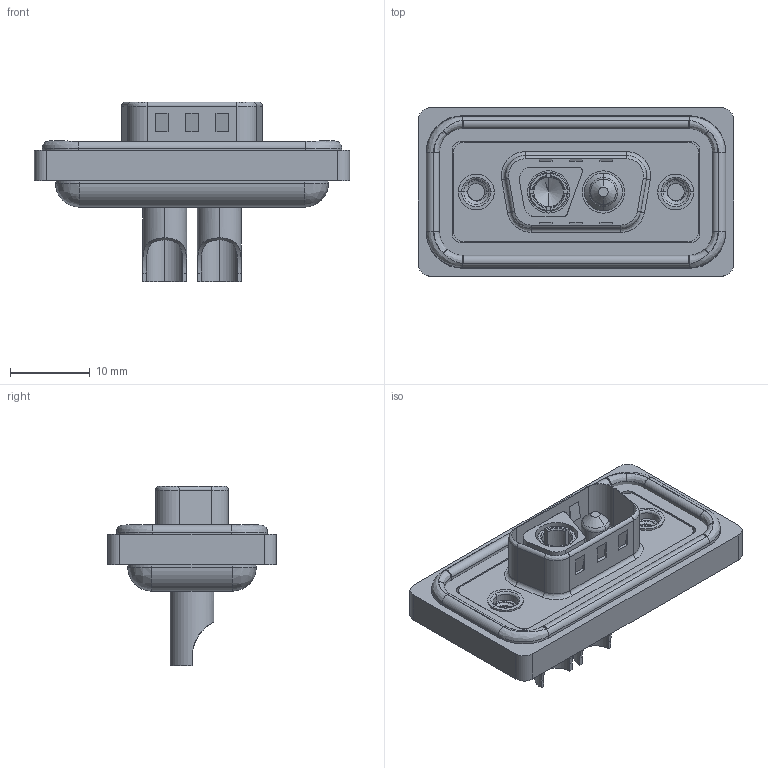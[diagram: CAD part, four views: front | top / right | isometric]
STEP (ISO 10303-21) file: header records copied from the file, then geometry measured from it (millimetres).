
FILE_DESCRIPTION (( 'STEP AP203' ), '1' );
FILE_NAME ('CDFS2W2K103L411.STEP', '2025-08-27T14:09:50', ( '' ), ( '' ), 'SwSTEP 2.0', 'SolidWorks 2020', '' );
FILE_SCHEMA (( 'CONFIG_CONTROL_DESIGN' ));
Length unit declared in the file: millimetre
Products named in the file (1): CDFS2W2K103L411
Bounding box: 39.5 x 21.1 x 22.5 mm (x, y, z)
Surface area: 8788.3 mm2 (no closed solid volume)
Topology: 0 solids, 10 shells, 569 faces, 1430 edges, 883 vertices
Faces by surface type: cylinder 224, plane 211, bspline 90, cone 34, torus 10
Entity records: 20980 total; most frequent: CARTESIAN_POINT 7989, ORIENTED_EDGE 2804, DIRECTION 2537, EDGE_CURVE 1416, AXIS2_PLACEMENT_3D 963, VERTEX_POINT 883, EDGE_LOOP 622, LINE 611
